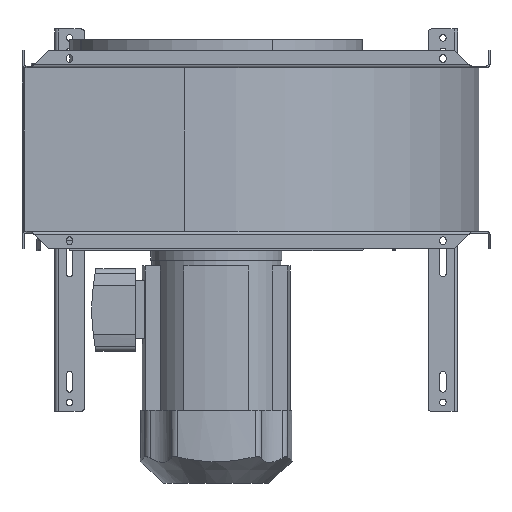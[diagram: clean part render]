
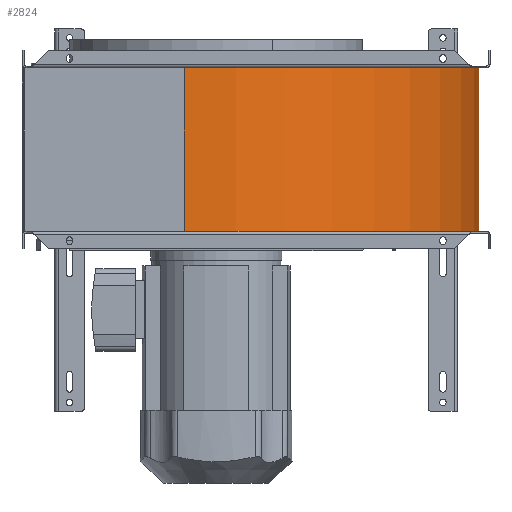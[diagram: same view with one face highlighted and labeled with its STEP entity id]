
A CAD part, front view. The second image highlights one B-rep face of the part: STEP entity #2824.
In plain terms, the highlighted cylindrical face has radius 500.5 mm (diameter 1001 mm), a partial arc.
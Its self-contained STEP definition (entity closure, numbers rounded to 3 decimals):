
#359=DIRECTION('',(0.,0.,1.));
#360=VECTOR('',#359,278.);
#361=CARTESIAN_POINT('',(-54.,-542.8,-139.));
#362=LINE('',#361,#360);
#502=CARTESIAN_POINT('',(-54.,-42.3,139.));
#503=DIRECTION('',(0.,0.,-1.));
#504=DIRECTION('',(1.,0.002,0.));
#505=AXIS2_PLACEMENT_3D('',#502,#503,#504);
#532=CARTESIAN_POINT('',(-54.,-42.3,-139.));
#533=DIRECTION('',(0.,0.,-1.));
#534=DIRECTION('',(1.,0.002,0.));
#535=AXIS2_PLACEMENT_3D('',#532,#533,#534);
#540=DIRECTION('',(0.,0.,1.));
#541=VECTOR('',#540,278.);
#542=CARTESIAN_POINT('',(446.499,-41.185,-139.));
#543=LINE('',#542,#541);
#1877=CARTESIAN_POINT('',(-54.,-542.8,-139.));
#1878=VERTEX_POINT('',#1877);
#1881=CARTESIAN_POINT('',(-54.,-542.8,139.));
#1882=VERTEX_POINT('',#1881);
#1889=CARTESIAN_POINT('',(446.499,-41.185,-139.));
#1890=VERTEX_POINT('',#1889);
#1891=CARTESIAN_POINT('',(446.499,-41.185,139.));
#1892=VERTEX_POINT('',#1891);
#2812=CARTESIAN_POINT('',(-54.,-42.3,-139.));
#2813=DIRECTION('',(0.,0.,1.));
#2814=DIRECTION('',(1.,0.,0.));
#2815=AXIS2_PLACEMENT_3D('',#2812,#2813,#2814);
#2816=CYLINDRICAL_SURFACE('',#2815,500.5);
#2817=ORIENTED_EDGE('',*,*,#2793,.T.);
#2818=ORIENTED_EDGE('',*,*,#2532,.T.);
#2819=ORIENTED_EDGE('',*,*,#2742,.F.);
#2821=ORIENTED_EDGE('',*,*,#2820,.F.);
#2822=EDGE_LOOP('',(#2817,#2818,#2819,#2821));
#2823=FACE_OUTER_BOUND('',#2822,.F.);
#506=CIRCLE('',#505,500.5);
#536=CIRCLE('',#535,500.5);
#2532=EDGE_CURVE('',#1878,#1882,#362,.T.);
#2742=EDGE_CURVE('',#1892,#1882,#506,.T.);
#2793=EDGE_CURVE('',#1890,#1878,#536,.T.);
#2820=EDGE_CURVE('',#1890,#1892,#543,.T.);
#2824=ADVANCED_FACE('',(#2823),#2816,.T.);
